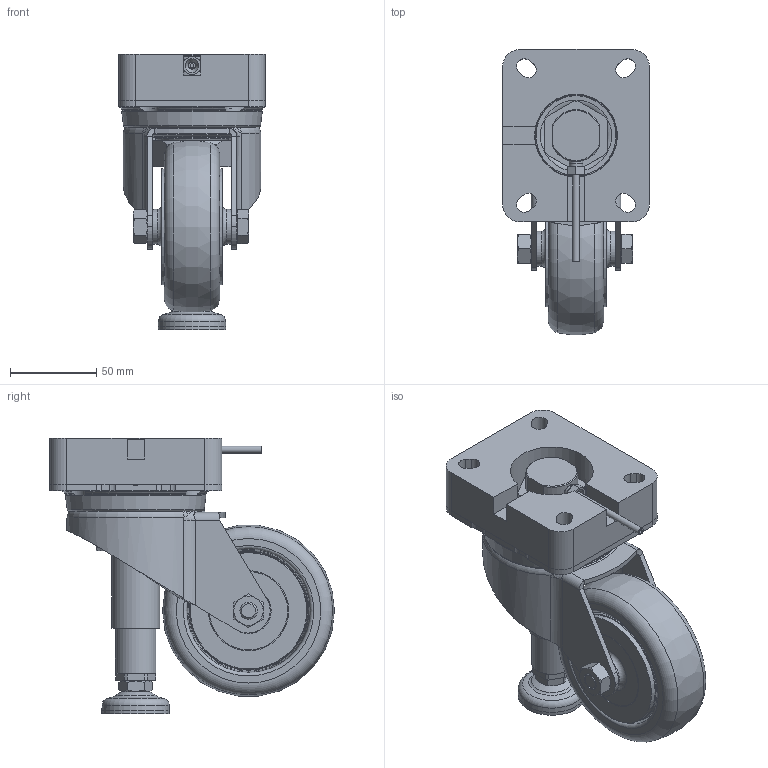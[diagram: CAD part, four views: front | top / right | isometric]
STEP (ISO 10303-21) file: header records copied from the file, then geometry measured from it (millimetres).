
FILE_DESCRIPTION(/* description */ ('Unknown'),/* implementation_level */ '2;1');
FILE_NAME(/* name */ '501.00101_01_ausgefahren',/* time_stamp */ '2021-07-13T09:26:47+02:00',/* author */ ('Unknown'),/* organization */ ('Unknown'),/* preprocessor_version */ 'ST-DEVELOPER v16.7',/* originating_system */ 'Solid Edge',/* authorisation */ 'Unknown');
FILE_SCHEMA (('AUTOMOTIVE_DESIGN {1 0 10303 214 3 1 1}'));
Length unit declared in the file: millimetre
Products named in the file (15): 501.00101; 106.00228_oa_0; 125.00307; 115.00009_oa_1; 125.00303; 125.00021; 120.00173; 125.00305; 113.00112; 125.00220; 113.00002_70mm; 113.00056_ohne Mutter; Teller ﾘ40; Gewindestange M10x25; 126.00133
Assembly tree (14 placements, depth 3):
  501.00101
    106.00228_oa_0
      125.00307
      115.00009_oa_1
      125.00303
      125.00021
      120.00173
      125.00305
    113.00112
    125.00220
    113.00002_70mm
    113.00056_ohne Mutter
      Teller ﾘ40
      Gewindestange M10x25
    126.00133
Bounding box: 85 x 165.31 x 159.69 mm (x, y, z)
Volume: 539488.8 mm3; surface area: 196886.8 mm2
Topology: 12 solids, 13 shells, 840 faces, 2238 edges, 1424 vertices
Faces by surface type: cylinder 269, plane 252, cone 130, torus 128, bspline 59, sphere 2
Full cylindrical faces by diameter (mm): 2.2 x1, 3.5 x2, 4 x1, 4.1 x2, 4.2 x1, 5 x1, 6.917 x2, 7.76 x3, 8 x4, 8.1 x3, 8.376 x2, 8.5 x18, 10 x3, 11.2 x1, 12 x1, 14.4 x1, 15.05 x2, 16.999 x1, 17.9 x2, 19.7 x1, 20.4 x1, 21 x2, 22 x1, 23 x2, 23.5 x1, 24.4 x1, 25 x2, 25.5 x2, 26.5 x1, 27 x1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
Entity records: 31940 total; most frequent: CARTESIAN_POINT 11164, DIRECTION 3879, ORIENTED_EDGE 3808, EDGE_CURVE 1904, AXIS2_PLACEMENT_3D 1654, VERTEX_POINT 1350, FACE_BOUND 1180, EDGE_LOOP 1178
